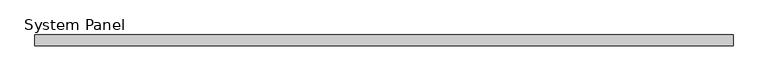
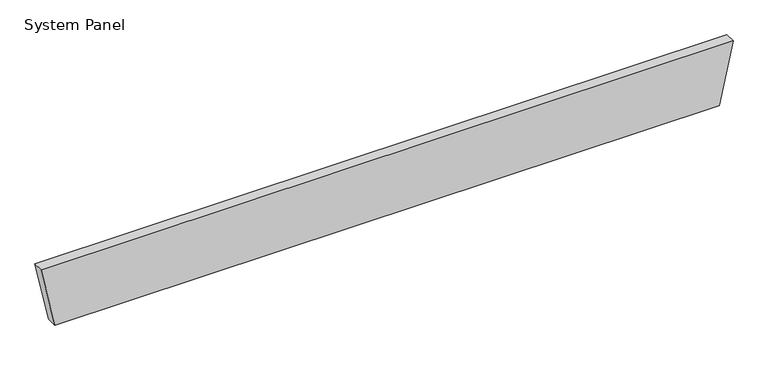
"""IFC4 building model written with IfcOpenShell, lengths in millimetres: plate geometry, System Panel : Equitilt_200mm_Plain_Surfmist."""

from ifc_helpers import new_model, si_unit, frame, origin, place, context, project, spatial, polyline, outline, extrude, source, transform, mapped, element, save


def system_panel_2705c962(model_context):
    return source(origin(), model_context, "Body", "SweptSolid", [
        extrude(outline(polyline([(0.0, -6260.8716619), (0.0, 6260.8716619), (1200.0, 6521.7433237), (1200.0, -6521.7433237), (0.0, -6260.8716619)])), frame((0.0, -200.0, 0.0), z_axis=(0.0, 1.0, 0.0), x_axis=(0.0, 0.0, 1.0)), (0.0, 0.0, 1.0), 200.0),
    ])


if __name__ == "__main__":
    model = new_model("IFC4")
    model_context = context("Model", 3, world=origin())
    ifc_project = project(units=[si_unit("LENGTHUNIT", "METRE", prefix="MILLI")], contexts=[model_context])
    site = spatial("IfcSite", under=ifc_project)
    building = spatial("IfcBuilding", under=site)
    placement = place(None, origin())
    system_panel_shape = system_panel_2705c962(model_context)
    element("IfcPlate", 1, ObjectType="System Panel : Equitilt_200mm_Plain_Surfmist", at=placement, inside=building, context=model_context, shape_type="MappedRepresentation", body=[
        mapped(system_panel_shape, transform((0.0, 0.0, 0.0), x_axis=(1.0, 0.0, 0.0), y_axis=(0.0, 1.0, 0.0), z_axis=(0.0, 0.0, 1.0))),
    ])
    save(model, "model.ifc")
